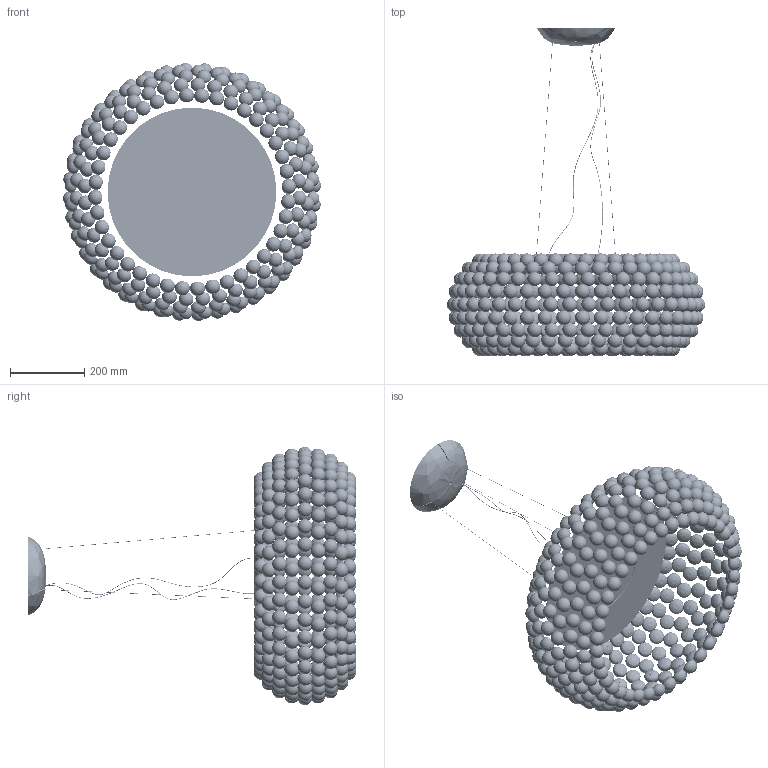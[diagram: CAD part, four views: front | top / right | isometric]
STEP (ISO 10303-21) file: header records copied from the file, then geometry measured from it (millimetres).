
FILE_DESCRIPTION (( 'STEP AP214' ), '1' );
FILE_NAME ('311_GRANDE_S_XX_3D.STEP', '2021-05-21T08:54:28', ( '' ), ( '' ), 'SwSTEP 2.0', 'SolidWorks 2021', '' );
FILE_SCHEMA (( 'AUTOMOTIVE_DESIGN' ));
Length unit declared in the file: millimetre
Products named in the file (1): 311_GRANDE_S_XX_3D
Bounding box: 696.28 x 884.61 x 696.28 mm (x, y, z)
Volume: 12577945.2 mm3; surface area: 2034790.7 mm2
Topology: 362 solids, 362 shells, 3320 faces, 7392 edges, 4085 vertices
Faces by surface type: sphere 1440, cylinder 755, torus 728, plane 387, bspline 6, cone 4
Entity records: 123139 total; most frequent: DIRECTION 17656, CARTESIAN_POINT 14567, ORIENTED_EDGE 11904, AXIS2_PLACEMENT_3D 8444, EDGE_CURVE 5952, CIRCLE 5129, UNCERTAINTY_MEASURE_WITH_UNIT 3684, FILL_AREA_STYLE 3683
